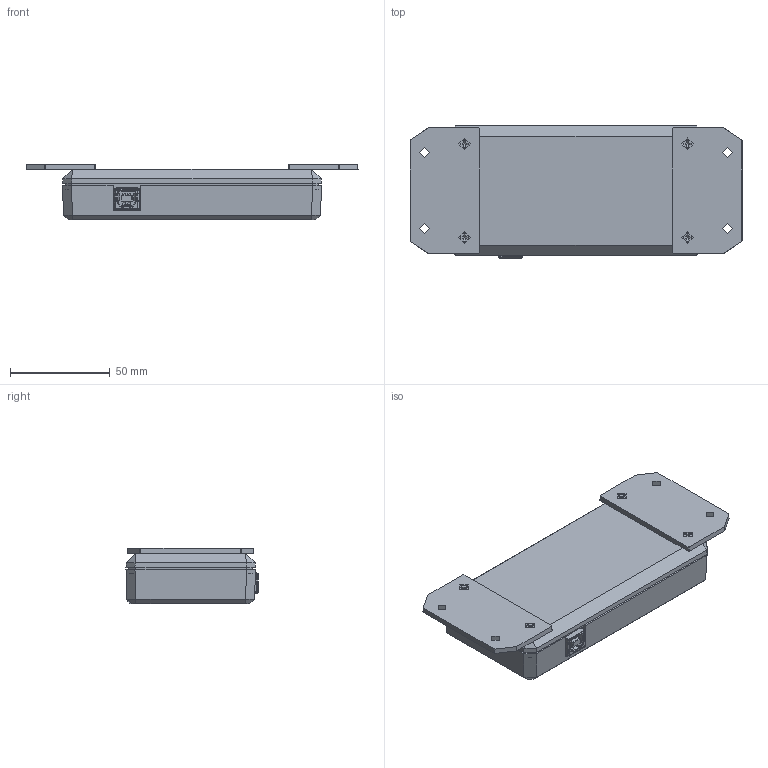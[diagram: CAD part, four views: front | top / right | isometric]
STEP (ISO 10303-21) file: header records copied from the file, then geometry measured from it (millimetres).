
FILE_DESCRIPTION (( 'STEP AP214' ), '1' );
FILE_NAME ('ADU 200, Flange.STEP', '2026-03-27T18:36:40', ( '' ), ( '' ), 'SwSTEP 2.0', 'SolidWorks 2015', '' );
FILE_SCHEMA (( 'AUTOMOTIVE_DESIGN' ));
Length unit declared in the file: inch
Products named in the file (23): Wieland_25.163.0253.0_CAD STEP data; 1599BBK; ADU 200, Flange; 91420A128_METRIC FLAT HEAD PHILLIPS MACHINE SCREW_91420A128; USB; Mounting Bracket ADU; 91420A128_METRIC FLAT HEAD PHILLIPS MACHINE SCREW
Assembly tree (20 placements, depth 2):
  Wieland_25.163.0253.0_CAD STEP data
  Wieland_25.163.0253.0_CAD STEP data
  1599BBK
  ADU 200, Flange
    1599BBK
    Wieland_25.163.0253.0_CAD STEP data  x8
    Mounting Bracket ADU  x2
    USB
    91420A128_METRIC FLAT HEAD PHILLIPS MACHINE SCREW_91420A128  x4
  ADU 200, Flange
    91420A128_METRIC FLAT HEAD PHILLIPS MACHINE SCREW
    91420A128_METRIC FLAT HEAD PHILLIPS MACHINE SCREW
    91420A128_METRIC FLAT HEAD PHILLIPS MACHINE SCREW
    91420A128_METRIC FLAT HEAD PHILLIPS MACHINE SCREW
Bounding box: 166.64 x 66.27 x 28.04 mm (x, y, z)
Volume: 80615 mm3; surface area: 74463 mm2
Topology: 20 solids, 21 shells, 2944 faces, 7996 edges, 5198 vertices
Faces by surface type: plane 1599, cylinder 751, bspline 496, cone 98
Full cylindrical faces by diameter (mm): 2.464 x4, 2.5 x12, 2.75 x12, 3 x144, 3.302 x4, 3.556 x4, 3.81 x12, 3.912 x4, 4 x16, 4.5 x4, 5.76 x2, 5.85 x4, 6 x2
Entity records: 101300 total; most frequent: CARTESIAN_POINT 34706, ORIENTED_EDGE 10820, DIRECTION 8303, EDGE_CURVE 5414, VERTEX_POINT 3561, LINE 3359, VECTOR 3359, AXIS2_PLACEMENT_3D 2472
